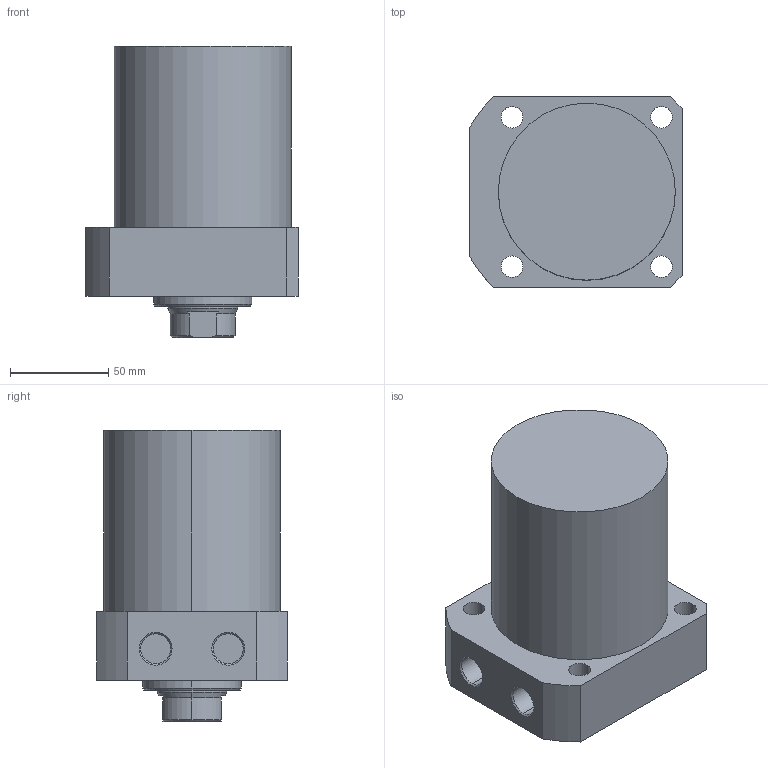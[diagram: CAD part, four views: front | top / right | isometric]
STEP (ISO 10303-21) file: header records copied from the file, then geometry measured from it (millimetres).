
FILE_DESCRIPTION (( 'STEP AP203' ), '1' );
FILE_NAME ('CLLR-090CA-070.STEP', '2019-12-19T02:20:15', ( '' ), ( '' ), 'SwSTEP 2.0', 'SolidWorks 2015', '' );
FILE_SCHEMA (( 'CONFIG_CONTROL_DESIGN' ));
Length unit declared in the file: millimetre
Products named in the file (1): CLLR-090CA-070
Bounding box: 108 x 97 x 148 mm (x, y, z)
Volume: 935541.8 mm3; surface area: 71075 mm2
Topology: 1 solids, 1 shells, 63 faces, 149 edges, 94 vertices
Faces by surface type: cylinder 29, plane 19, cone 15
Entity records: 1927 total; most frequent: DIRECTION 340, CARTESIAN_POINT 337, ORIENTED_EDGE 294, EDGE_CURVE 147, AXIS2_PLACEMENT_3D 137, VERTEX_POINT 94, EDGE_LOOP 79, CIRCLE 73
